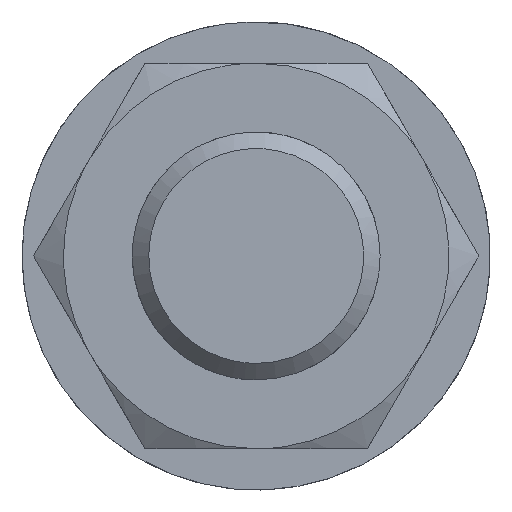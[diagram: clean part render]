
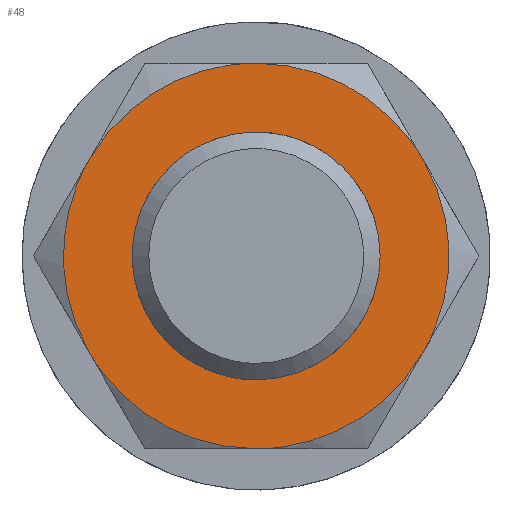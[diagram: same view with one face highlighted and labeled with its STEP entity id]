
A CAD part, left-side view. The second image highlights one B-rep face of the part: STEP entity #48.
In plain terms, the highlighted planar face has unit normal (-1, 0, 0).
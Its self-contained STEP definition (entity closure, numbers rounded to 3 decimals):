
#39=FACE_BOUND('',#135,.T.);
#48=ADVANCED_FACE('',(#90,#39),#650,.T.);
#90=FACE_OUTER_BOUND('',#134,.T.);
#134=EDGE_LOOP('',(#198,#199,#200,#201,#202,#203));
#135=EDGE_LOOP('',(#204,#205));
#198=ORIENTED_EDGE('',*,*,#397,.F.);
#199=ORIENTED_EDGE('',*,*,#399,.F.);
#200=ORIENTED_EDGE('',*,*,#400,.F.);
#201=ORIENTED_EDGE('',*,*,#398,.F.);
#202=ORIENTED_EDGE('',*,*,#396,.F.);
#203=ORIENTED_EDGE('',*,*,#395,.F.);
#204=ORIENTED_EDGE('',*,*,#385,.F.);
#205=ORIENTED_EDGE('',*,*,#383,.F.);
#383=EDGE_CURVE('',#596,#586,#507,.T.);
#385=EDGE_CURVE('',#586,#596,#508,.T.);
#395=EDGE_CURVE('',#590,#591,#516,.T.);
#396=EDGE_CURVE('',#591,#595,#517,.T.);
#397=EDGE_CURVE('',#592,#590,#518,.T.);
#398=EDGE_CURVE('',#595,#594,#519,.T.);
#399=EDGE_CURVE('',#593,#592,#520,.T.);
#400=EDGE_CURVE('',#594,#593,#521,.T.);
#507=(
BOUNDED_CURVE()
B_SPLINE_CURVE(2,(#1153,#1154,#1155,#1156,#1157),.UNSPECIFIED.,.F.,.F.)
B_SPLINE_CURVE_WITH_KNOTS((3,2,3),(70.686,106.029,141.372),
 .UNSPECIFIED.)
CURVE()
GEOMETRIC_REPRESENTATION_ITEM()
RATIONAL_B_SPLINE_CURVE((1.,0.707,1.,0.707,1.))
REPRESENTATION_ITEM('')
);
#508=(
BOUNDED_CURVE()
B_SPLINE_CURVE(2,(#1160,#1161,#1162,#1163,#1164),.UNSPECIFIED.,.F.,.F.)
B_SPLINE_CURVE_WITH_KNOTS((3,2,3),(0.,35.343,70.686),
 .UNSPECIFIED.)
CURVE()
GEOMETRIC_REPRESENTATION_ITEM()
RATIONAL_B_SPLINE_CURVE((1.,0.707,1.,0.707,1.))
REPRESENTATION_ITEM('')
);
#516=(
BOUNDED_CURVE()
B_SPLINE_CURVE(2,(#1202,#1203,#1204),.UNSPECIFIED.,.F.,.F.)
B_SPLINE_CURVE_WITH_KNOTS((3,3),(0.,36.652),.UNSPECIFIED.)
CURVE()
GEOMETRIC_REPRESENTATION_ITEM()
RATIONAL_B_SPLINE_CURVE((1.,0.866,1.))
REPRESENTATION_ITEM('')
);
#517=(
BOUNDED_CURVE()
B_SPLINE_CURVE(2,(#1205,#1206,#1207),.UNSPECIFIED.,.F.,.F.)
B_SPLINE_CURVE_WITH_KNOTS((3,3),(0.,36.652),.UNSPECIFIED.)
CURVE()
GEOMETRIC_REPRESENTATION_ITEM()
RATIONAL_B_SPLINE_CURVE((1.,0.866,1.))
REPRESENTATION_ITEM('')
);
#518=(
BOUNDED_CURVE()
B_SPLINE_CURVE(2,(#1208,#1209,#1210),.UNSPECIFIED.,.F.,.F.)
B_SPLINE_CURVE_WITH_KNOTS((3,3),(0.,36.652),.UNSPECIFIED.)
CURVE()
GEOMETRIC_REPRESENTATION_ITEM()
RATIONAL_B_SPLINE_CURVE((1.,0.866,1.))
REPRESENTATION_ITEM('')
);
#519=(
BOUNDED_CURVE()
B_SPLINE_CURVE(2,(#1211,#1212,#1213),.UNSPECIFIED.,.F.,.F.)
B_SPLINE_CURVE_WITH_KNOTS((3,3),(0.,36.652),.UNSPECIFIED.)
CURVE()
GEOMETRIC_REPRESENTATION_ITEM()
RATIONAL_B_SPLINE_CURVE((1.,0.866,1.))
REPRESENTATION_ITEM('')
);
#520=(
BOUNDED_CURVE()
B_SPLINE_CURVE(2,(#1214,#1215,#1216),.UNSPECIFIED.,.F.,.F.)
B_SPLINE_CURVE_WITH_KNOTS((3,3),(0.,36.652),.UNSPECIFIED.)
CURVE()
GEOMETRIC_REPRESENTATION_ITEM()
RATIONAL_B_SPLINE_CURVE((1.,0.866,1.))
REPRESENTATION_ITEM('')
);
#521=(
BOUNDED_CURVE()
B_SPLINE_CURVE(2,(#1217,#1218,#1219),.UNSPECIFIED.,.F.,.F.)
B_SPLINE_CURVE_WITH_KNOTS((3,3),(0.,36.652),.UNSPECIFIED.)
CURVE()
GEOMETRIC_REPRESENTATION_ITEM()
RATIONAL_B_SPLINE_CURVE((1.,0.866,1.))
REPRESENTATION_ITEM('')
);
#586=VERTEX_POINT('',#1121);
#590=VERTEX_POINT('',#1125);
#591=VERTEX_POINT('',#1126);
#592=VERTEX_POINT('',#1127);
#593=VERTEX_POINT('',#1128);
#594=VERTEX_POINT('',#1129);
#595=VERTEX_POINT('',#1130);
#596=VERTEX_POINT('',#1131);
#650=PLANE('',#764);
#764=AXIS2_PLACEMENT_3D('',#878,#790,$);
#790=DIRECTION('',(-1.,0.,0.));
#878=CARTESIAN_POINT('',(62.667,-48.617,42.12));
#1121=CARTESIAN_POINT('',(62.667,0.,-22.5));
#1125=CARTESIAN_POINT('',(62.667,-30.311,17.5));
#1126=CARTESIAN_POINT('',(62.667,-30.311,-17.5));
#1127=CARTESIAN_POINT('',(62.667,0.,35.));
#1128=CARTESIAN_POINT('',(62.667,30.311,17.5));
#1129=CARTESIAN_POINT('',(62.667,30.311,-17.5));
#1130=CARTESIAN_POINT('',(62.667,0.,-35.));
#1131=CARTESIAN_POINT('',(62.667,0.,22.5));
#1153=CARTESIAN_POINT('',(62.667,0.,22.5));
#1154=CARTESIAN_POINT('',(62.667,22.5,22.5));
#1155=CARTESIAN_POINT('',(62.667,22.5,0.));
#1156=CARTESIAN_POINT('',(62.667,22.5,-22.5));
#1157=CARTESIAN_POINT('',(62.667,0.,-22.5));
#1160=CARTESIAN_POINT('',(62.667,0.,-22.5));
#1161=CARTESIAN_POINT('',(62.667,-22.5,-22.5));
#1162=CARTESIAN_POINT('',(62.667,-22.5,0.));
#1163=CARTESIAN_POINT('',(62.667,-22.5,22.5));
#1164=CARTESIAN_POINT('',(62.667,0.,22.5));
#1202=CARTESIAN_POINT('',(62.667,-30.311,17.5));
#1203=CARTESIAN_POINT('',(62.667,-40.415,0.));
#1204=CARTESIAN_POINT('',(62.667,-30.311,-17.5));
#1205=CARTESIAN_POINT('',(62.667,-30.311,-17.5));
#1206=CARTESIAN_POINT('',(62.667,-20.207,-35.));
#1207=CARTESIAN_POINT('',(62.667,0.,-35.));
#1208=CARTESIAN_POINT('',(62.667,0.,35.));
#1209=CARTESIAN_POINT('',(62.667,-20.207,35.));
#1210=CARTESIAN_POINT('',(62.667,-30.311,17.5));
#1211=CARTESIAN_POINT('',(62.667,0.,-35.));
#1212=CARTESIAN_POINT('',(62.667,20.207,-35.));
#1213=CARTESIAN_POINT('',(62.667,30.311,-17.5));
#1214=CARTESIAN_POINT('',(62.667,30.311,17.5));
#1215=CARTESIAN_POINT('',(62.667,20.207,35.));
#1216=CARTESIAN_POINT('',(62.667,0.,35.));
#1217=CARTESIAN_POINT('',(62.667,30.311,-17.5));
#1218=CARTESIAN_POINT('',(62.667,40.415,0.));
#1219=CARTESIAN_POINT('',(62.667,30.311,17.5));
